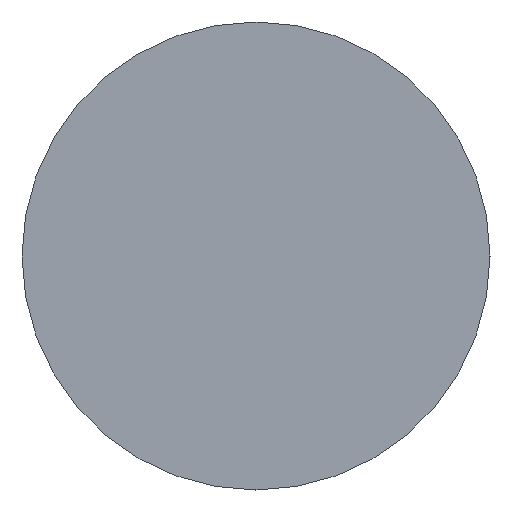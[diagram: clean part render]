
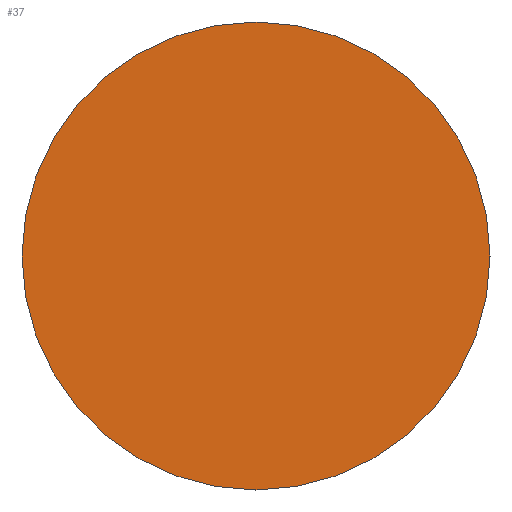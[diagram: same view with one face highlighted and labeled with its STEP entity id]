
A CAD part, left-side view. The second image highlights one B-rep face of the part: STEP entity #37.
In plain terms, the highlighted planar face has unit normal (-1, 0, 0).
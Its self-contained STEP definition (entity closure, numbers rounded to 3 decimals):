
#24 = EDGE_LOOP ( 'NONE', ( #427, #398 ) ) ;
#37 = ADVANCED_FACE ( 'NONE', ( #207 ), #208, .F. ) ;
#41 = VERTEX_POINT ( 'NONE', #266 ) ;
#63 = EDGE_CURVE ( 'NONE', #41, #476, #544, .T. ) ;
#68 = CARTESIAN_POINT ( 'NONE',  ( 0., 0., 0. ) ) ;
#69 = DIRECTION ( 'NONE',  ( -1., 0., 0. ) ) ;
#70 = DIRECTION ( 'NONE',  ( 0., 0., 1. ) ) ;
#207 = FACE_OUTER_BOUND ( 'NONE', #24, .T. ) ;
#208 = PLANE ( 'NONE',  #209 ) ;
#209 = AXIS2_PLACEMENT_3D ( 'NONE', #210, #211, #212 ) ;
#210 = CARTESIAN_POINT ( 'NONE',  ( 0., 20., 0. ) ) ;
#211 = DIRECTION ( 'NONE',  ( 1., 0., 0. ) ) ;
#212 = DIRECTION ( 'NONE',  ( 0., 0., -1. ) ) ;
#266 = CARTESIAN_POINT ( 'NONE',  ( 0., 0., -20. ) ) ;
#398 = ORIENTED_EDGE ( 'NONE', *, *, #63, .T. ) ;
#427 = ORIENTED_EDGE ( 'NONE', *, *, #529, .T. ) ;
#476 = VERTEX_POINT ( 'NONE', #501 ) ;
#501 = CARTESIAN_POINT ( 'NONE',  ( 0., 0., 20. ) ) ;
#523 = CIRCLE ( 'NONE', #524, 20. ) ;
#524 = AXIS2_PLACEMENT_3D ( 'NONE', #525, #526, #527 ) ;
#525 = CARTESIAN_POINT ( 'NONE',  ( 0., 0., 0. ) ) ;
#526 = DIRECTION ( 'NONE',  ( -1., 0., 0. ) ) ;
#527 = DIRECTION ( 'NONE',  ( 0., 0., 1. ) ) ;
#529 = EDGE_CURVE ( 'NONE', #476, #41, #523, .T. ) ;
#544 = CIRCLE ( 'NONE', #545, 20. ) ;
#545 = AXIS2_PLACEMENT_3D ( 'NONE', #68, #69, #70 ) ;
